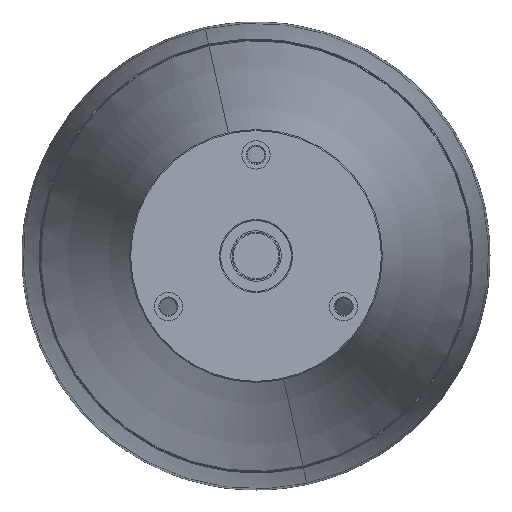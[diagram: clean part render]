
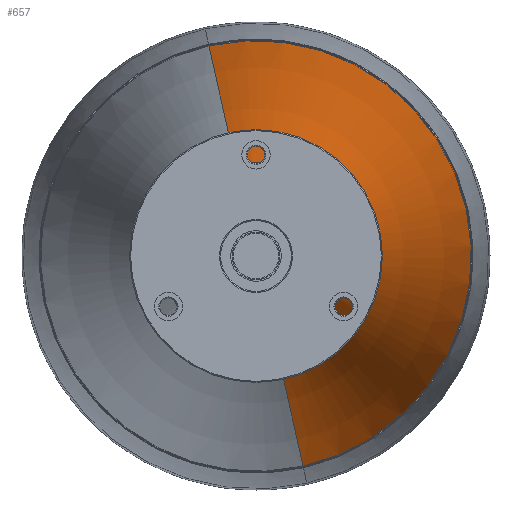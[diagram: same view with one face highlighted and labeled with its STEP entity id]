
A CAD part, front view. The second image highlights one B-rep face of the part: STEP entity #657.
In plain terms, the highlighted toroidal (fillet/blend) face has major radius 2425.65 mm and minor radius 2541 mm.
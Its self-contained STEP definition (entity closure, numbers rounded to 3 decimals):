
#657 = ADVANCED_FACE ( 'NONE', ( #50498 ), #27195, .T. ) ;
#1010 = DIRECTION ( 'NONE',  ( 0.218, 0., -0.976 ) ) ;
#1274 = ORIENTED_EDGE ( 'NONE', *, *, #49154, .F. ) ;
#2121 = DIRECTION ( 'NONE',  ( 0., -1., 0. ) ) ;
#2360 = CARTESIAN_POINT ( 'NONE',  ( -475.562, 723.125, 2342.736 ) ) ;
#6170 = DIRECTION ( 'NONE',  ( -0.218, 0., 0.976 ) ) ;
#8304 = DIRECTION ( 'NONE',  ( 0., -1., 0. ) ) ;
#11513 = EDGE_LOOP ( 'NONE', ( #32906, #33750, #38360, #1274 ) ) ;
#11699 = CIRCLE ( 'NONE', #55851, 106.741 ) ;
#12216 = AXIS2_PLACEMENT_3D ( 'NONE', #29385, #2121, #51359 ) ;
#14170 = CARTESIAN_POINT ( 'NONE',  ( 54.329, 134.46, -24.333 ) ) ;
#15502 = CIRCLE ( 'NONE', #22997, 46.218 ) ;
#16498 = AXIS2_PLACEMENT_3D ( 'NONE', #45579, #54972, #1010 ) ;
#20236 = DIRECTION ( 'NONE',  ( -0.976, 0., -0.218 ) ) ;
#21592 = EDGE_CURVE ( 'NONE', #43728, #57052, #15502, .T. ) ;
#22445 = EDGE_CURVE ( 'NONE', #52105, #48196, #11699, .T. ) ;
#22613 = CARTESIAN_POINT ( 'NONE',  ( 77.647, 514.195, -128.496 ) ) ;
#22969 = AXIS2_PLACEMENT_3D ( 'NONE', #2360, #20236, #6170 ) ;
#22997 = AXIS2_PLACEMENT_3D ( 'NONE', #14170, #32073, #27938 ) ;
#24019 = CARTESIAN_POINT ( 'NONE',  ( 31.011, 514.195, 79.831 ) ) ;
#25021 = DIRECTION ( 'NONE',  ( 0.218, 0., -0.976 ) ) ;
#27195 = TOROIDAL_SURFACE ( 'NONE', #12216, -2425.654, 2541. ) ;
#27938 = DIRECTION ( 'NONE',  ( 0.218, 0., -0.976 ) ) ;
#29385 = CARTESIAN_POINT ( 'NONE',  ( 54.329, 723.125, -24.333 ) ) ;
#29799 = CARTESIAN_POINT ( 'NONE',  ( 64.426, 134.46, -69.435 ) ) ;
#30640 = CARTESIAN_POINT ( 'NONE',  ( 54.329, 514.195, -24.333 ) ) ;
#32073 = DIRECTION ( 'NONE',  ( 0., -1., 0. ) ) ;
#32906 = ORIENTED_EDGE ( 'NONE', *, *, #22445, .T. ) ;
#33750 = ORIENTED_EDGE ( 'NONE', *, *, #50999, .T. ) ;
#37108 = CIRCLE ( 'NONE', #16498, 2541. ) ;
#38360 = ORIENTED_EDGE ( 'NONE', *, *, #21592, .F. ) ;
#43728 = VERTEX_POINT ( 'NONE', #29799 ) ;
#45579 = CARTESIAN_POINT ( 'NONE',  ( 584.22, 723.125, -2391.402 ) ) ;
#48196 = VERTEX_POINT ( 'NONE', #24019 ) ;
#48213 = CIRCLE ( 'NONE', #22969, 2541. ) ;
#49154 = EDGE_CURVE ( 'NONE', #52105, #43728, #48213, .T. ) ;
#49924 = CARTESIAN_POINT ( 'NONE',  ( 44.233, 134.46, 20.769 ) ) ;
#50498 = FACE_OUTER_BOUND ( 'NONE', #11513, .T. ) ;
#50999 = EDGE_CURVE ( 'NONE', #48196, #57052, #37108, .T. ) ;
#51359 = DIRECTION ( 'NONE',  ( 0.218, 0., -0.976 ) ) ;
#52105 = VERTEX_POINT ( 'NONE', #22613 ) ;
#54972 = DIRECTION ( 'NONE',  ( 0.976, 0., 0.218 ) ) ;
#55851 = AXIS2_PLACEMENT_3D ( 'NONE', #30640, #8304, #25021 ) ;
#57052 = VERTEX_POINT ( 'NONE', #49924 ) ;
